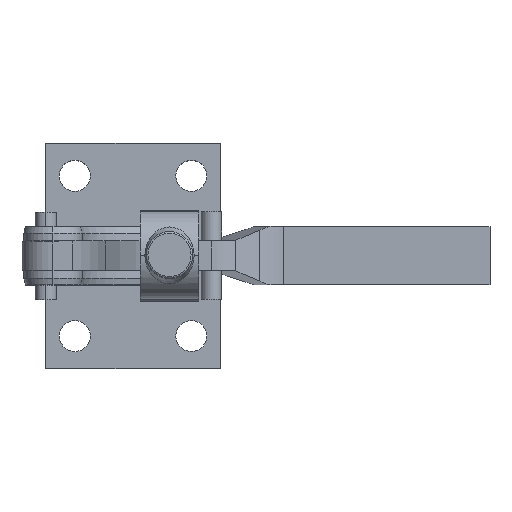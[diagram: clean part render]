
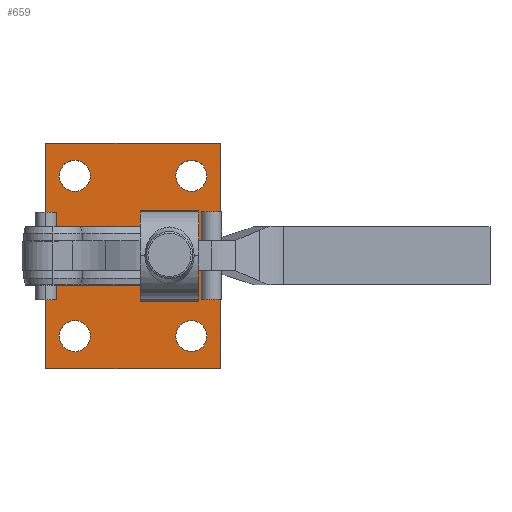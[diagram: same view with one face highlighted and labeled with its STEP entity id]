
A CAD part, top view. The second image highlights one B-rep face of the part: STEP entity #659.
In plain terms, the highlighted planar face has unit normal (0, 0, 1).
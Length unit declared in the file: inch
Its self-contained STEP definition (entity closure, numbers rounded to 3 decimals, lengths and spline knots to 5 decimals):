
#659 = ADVANCED_FACE( '', ( #868, #869, #870, #871, #872 ), #873, .T. );
#868 = FACE_OUTER_BOUND( '', #1296, .T. );
#869 = FACE_BOUND( '', #1297, .T. );
#870 = FACE_BOUND( '', #1298, .T. );
#871 = FACE_BOUND( '', #1299, .T. );
#872 = FACE_BOUND( '', #1300, .T. );
#873 = PLANE( '', #1301 );
#1296 = EDGE_LOOP( '', ( #1773, #1774, #1775, #1776 ) );
#1297 = EDGE_LOOP( '', ( #1777, #1778 ) );
#1298 = EDGE_LOOP( '', ( #1779, #1780 ) );
#1299 = EDGE_LOOP( '', ( #1781, #1782 ) );
#1300 = EDGE_LOOP( '', ( #1783, #1784 ) );
#1301 = AXIS2_PLACEMENT_3D( '', #1785, #1786, #1787 );
#1773 = ORIENTED_EDGE( '', *, *, #3312, .T. );
#1774 = ORIENTED_EDGE( '', *, *, #3305, .T. );
#1775 = ORIENTED_EDGE( '', *, *, #3308, .T. );
#1776 = ORIENTED_EDGE( '', *, *, #3310, .T. );
#1777 = ORIENTED_EDGE( '', *, *, #3294, .T. );
#1778 = ORIENTED_EDGE( '', *, *, #3313, .T. );
#1779 = ORIENTED_EDGE( '', *, *, #3290, .T. );
#1780 = ORIENTED_EDGE( '', *, *, #3314, .T. );
#1781 = ORIENTED_EDGE( '', *, *, #3286, .T. );
#1782 = ORIENTED_EDGE( '', *, *, #3315, .T. );
#1783 = ORIENTED_EDGE( '', *, *, #3282, .T. );
#1784 = ORIENTED_EDGE( '', *, *, #3316, .T. );
#1785 = CARTESIAN_POINT( '', ( 2.875, 1.375, 0. ) );
#1786 = DIRECTION( '', ( 0., 0., 1. ) );
#1787 = DIRECTION( '', ( 1., 0., 0. ) );
#3282 = EDGE_CURVE( '', #3781, #3778, #3782, .T. );
#3286 = EDGE_CURVE( '', #3789, #3786, #3790, .T. );
#3290 = EDGE_CURVE( '', #3797, #3794, #3798, .T. );
#3294 = EDGE_CURVE( '', #3805, #3802, #3806, .T. );
#3305 = EDGE_CURVE( '', #3822, #3823, #3824, .T. );
#3308 = EDGE_CURVE( '', #3823, #3827, #3828, .T. );
#3310 = EDGE_CURVE( '', #3827, #3830, #3831, .T. );
#3312 = EDGE_CURVE( '', #3830, #3822, #3833, .T. );
#3313 = EDGE_CURVE( '', #3802, #3805, #3834, .T. );
#3314 = EDGE_CURVE( '', #3794, #3797, #3835, .T. );
#3315 = EDGE_CURVE( '', #3786, #3789, #3836, .T. );
#3316 = EDGE_CURVE( '', #3778, #3781, #3837, .T. );
#3778 = VERTEX_POINT( '', #4601 );
#3781 = VERTEX_POINT( '', #4605 );
#3782 = CIRCLE( '', #4606, 0.26563 );
#3786 = VERTEX_POINT( '', #4611 );
#3789 = VERTEX_POINT( '', #4615 );
#3790 = CIRCLE( '', #4616, 0.26563 );
#3794 = VERTEX_POINT( '', #4621 );
#3797 = VERTEX_POINT( '', #4625 );
#3798 = CIRCLE( '', #4626, 0.26563 );
#3802 = VERTEX_POINT( '', #4631 );
#3805 = VERTEX_POINT( '', #4635 );
#3806 = CIRCLE( '', #4636, 0.26563 );
#3822 = VERTEX_POINT( '', #4657 );
#3823 = VERTEX_POINT( '', #4658 );
#3824 = LINE( '', #4659, #4660 );
#3827 = VERTEX_POINT( '', #4665 );
#3828 = LINE( '', #4666, #4667 );
#3830 = VERTEX_POINT( '', #4670 );
#3831 = LINE( '', #4671, #4672 );
#3833 = LINE( '', #4675, #4676 );
#3834 = CIRCLE( '', #4677, 0.26563 );
#3835 = CIRCLE( '', #4678, 0.26563 );
#3836 = CIRCLE( '', #4679, 0.26563 );
#3837 = CIRCLE( '', #4680, 0.26563 );
#4601 = CARTESIAN_POINT( '', ( 0.60938, 1.375, 0. ) );
#4605 = CARTESIAN_POINT( '', ( 1.14063, 1.375, 0. ) );
#4606 = AXIS2_PLACEMENT_3D( '', #5786, #5787, #5788 );
#4611 = CARTESIAN_POINT( '', ( 0.60938, -1.375, 0. ) );
#4615 = CARTESIAN_POINT( '', ( 1.14063, -1.375, 0. ) );
#4616 = AXIS2_PLACEMENT_3D( '', #5794, #5795, #5796 );
#4621 = CARTESIAN_POINT( '', ( 2.60938, -1.375, 0. ) );
#4625 = CARTESIAN_POINT( '', ( 3.14063, -1.375, 0. ) );
#4626 = AXIS2_PLACEMENT_3D( '', #5802, #5803, #5804 );
#4631 = CARTESIAN_POINT( '', ( 2.60938, 1.375, 0. ) );
#4635 = CARTESIAN_POINT( '', ( 3.14063, 1.375, 0. ) );
#4636 = AXIS2_PLACEMENT_3D( '', #5810, #5811, #5812 );
#4657 = CARTESIAN_POINT( '', ( 0.375, -1.9375, 0. ) );
#4658 = CARTESIAN_POINT( '', ( 3.375, -1.9375, 0. ) );
#4659 = CARTESIAN_POINT( '', ( 0.375, -1.9375, 0. ) );
#4660 = VECTOR( '', #5833, 3. );
#4665 = CARTESIAN_POINT( '', ( 3.375, 1.9375, 0. ) );
#4666 = CARTESIAN_POINT( '', ( 3.375, -1.9375, 0. ) );
#4667 = VECTOR( '', #5836, 3.875 );
#4670 = CARTESIAN_POINT( '', ( 0.375, 1.9375, 0. ) );
#4671 = CARTESIAN_POINT( '', ( 3.375, 1.9375, 0. ) );
#4672 = VECTOR( '', #5838, 3. );
#4675 = CARTESIAN_POINT( '', ( 0.375, 1.9375, 0. ) );
#4676 = VECTOR( '', #5840, 3.875 );
#4677 = AXIS2_PLACEMENT_3D( '', #5841, #5842, #5843 );
#4678 = AXIS2_PLACEMENT_3D( '', #5844, #5845, #5846 );
#4679 = AXIS2_PLACEMENT_3D( '', #5847, #5848, #5849 );
#4680 = AXIS2_PLACEMENT_3D( '', #5850, #5851, #5852 );
#5786 = CARTESIAN_POINT( '', ( 0.875, 1.375, 0. ) );
#5787 = DIRECTION( '', ( 0., 0., -1. ) );
#5788 = DIRECTION( '', ( 1., 0., 0. ) );
#5794 = CARTESIAN_POINT( '', ( 0.875, -1.375, 0. ) );
#5795 = DIRECTION( '', ( 0., 0., -1. ) );
#5796 = DIRECTION( '', ( 1., 0., 0. ) );
#5802 = CARTESIAN_POINT( '', ( 2.875, -1.375, 0. ) );
#5803 = DIRECTION( '', ( 0., 0., -1. ) );
#5804 = DIRECTION( '', ( 1., 0., 0. ) );
#5810 = CARTESIAN_POINT( '', ( 2.875, 1.375, 0. ) );
#5811 = DIRECTION( '', ( 0., 0., -1. ) );
#5812 = DIRECTION( '', ( 1., 0., 0. ) );
#5833 = DIRECTION( '', ( 1., 0., 0. ) );
#5836 = DIRECTION( '', ( 0., 1., 0. ) );
#5838 = DIRECTION( '', ( -1., 0., 0. ) );
#5840 = DIRECTION( '', ( 0., -1., 0. ) );
#5841 = CARTESIAN_POINT( '', ( 2.875, 1.375, 0. ) );
#5842 = DIRECTION( '', ( 0., 0., -1. ) );
#5843 = DIRECTION( '', ( 1., 0., 0. ) );
#5844 = CARTESIAN_POINT( '', ( 2.875, -1.375, 0. ) );
#5845 = DIRECTION( '', ( 0., 0., -1. ) );
#5846 = DIRECTION( '', ( 1., 0., 0. ) );
#5847 = CARTESIAN_POINT( '', ( 0.875, -1.375, 0. ) );
#5848 = DIRECTION( '', ( 0., 0., -1. ) );
#5849 = DIRECTION( '', ( 1., 0., 0. ) );
#5850 = CARTESIAN_POINT( '', ( 0.875, 1.375, 0. ) );
#5851 = DIRECTION( '', ( 0., 0., -1. ) );
#5852 = DIRECTION( '', ( 1., 0., 0. ) );
